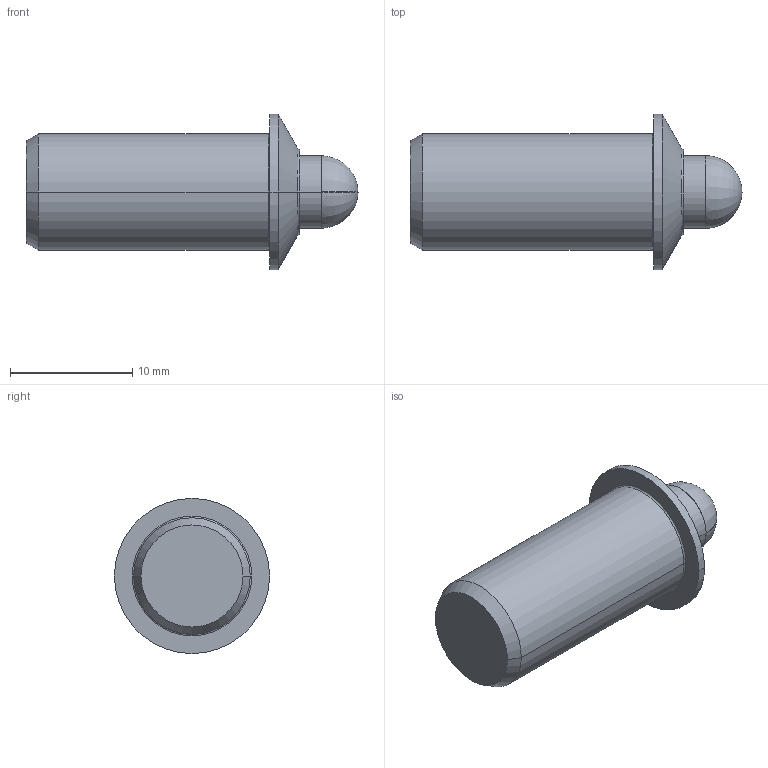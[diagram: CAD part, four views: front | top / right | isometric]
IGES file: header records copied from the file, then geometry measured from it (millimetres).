
Start section:  PTC IGES file: pfp58-part-3d.igs
Global section: file name: pfp58-part-3d.igs; native system: Pro/ENGINEER by Parametric Technology Corporation; preprocessor: 2002350; author: chant; organization: Unknown; date: 070201.155708; units: inch
Bounding box: 27.18 x 12.7 x 12.7 mm (x, y, z)
Surface area: 1388.9 mm2 (no closed solid volume)
Topology: 0 solids, 0 shells, 30 faces, 154 edges, 176 vertices
Faces by surface type: revolution 24, bspline 6
